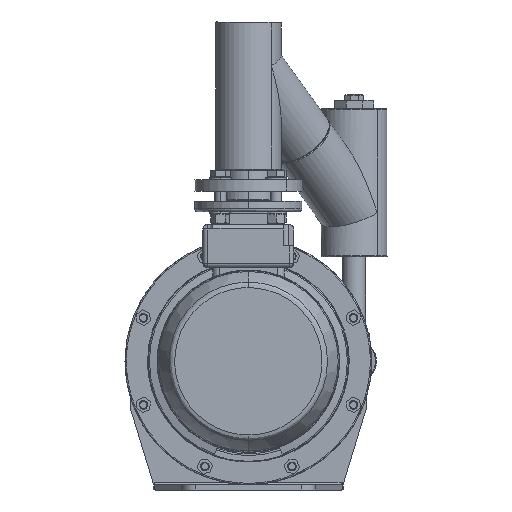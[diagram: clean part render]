
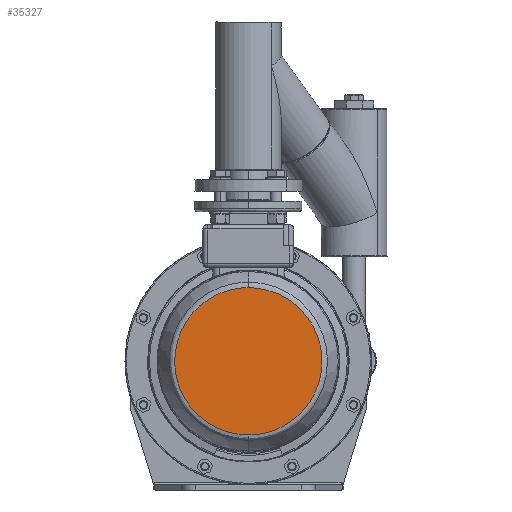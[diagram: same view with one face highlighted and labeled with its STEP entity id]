
A CAD part, front view. The second image highlights one B-rep face of the part: STEP entity #35327.
In plain terms, the highlighted planar face has unit normal (0, -1, 0).
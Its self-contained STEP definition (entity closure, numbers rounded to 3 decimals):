
#22631 = CARTESIAN_POINT ( 'NONE',  ( -154.478, -770.387, -78.019 ) ) ;
#22632 = CARTESIAN_POINT ( 'NONE',  ( 51.56, -770.387, -78.019 ) ) ;
#22633 = CARTESIAN_POINT ( 'NONE',  ( 51.56, -770.387, 128.019 ) ) ;
#22634 = CARTESIAN_POINT ( 'NONE',  ( -154.478, -770.387, 128.019 ) ) ;
#22636 =( BOUNDED_CURVE ( )  B_SPLINE_CURVE ( 3, ( #22634, #22633, #22632, #22631 ),
 .UNSPECIFIED., .F., .F. ) 
 B_SPLINE_CURVE_WITH_KNOTS ( ( 4, 4 ),
 ( 0., 1. ),
 .UNSPECIFIED. ) 
 CURVE ( )  GEOMETRIC_REPRESENTATION_ITEM ( )  RATIONAL_B_SPLINE_CURVE ( ( 1., 0.333, 0.333, 1. ) ) 
 REPRESENTATION_ITEM ( '' )  );
#23059 = CARTESIAN_POINT ( 'NONE',  ( -154.478, -770.387, 25. ) ) ;
#23148 = DIRECTION ( 'NONE',  ( 1., 0., 0. ) ) ;
#23164 = DIRECTION ( 'NONE',  ( 0., -1., 0. ) ) ;
#23167 = FACE_OUTER_BOUND ( 'NONE', #35010, .T. ) ;
#23175 = AXIS2_PLACEMENT_3D ( 'NONE', #23059, #23164, #23148 ) ;
#23177 = PLANE ( 'NONE',  #23175 ) ;
#34457 = EDGE_CURVE ( 'NONE', #101514, #101666, #22636, .T. ) ;
#34520 = ORIENTED_EDGE ( 'NONE', *, *, #34457, .F. ) ;
#34528 = ORIENTED_EDGE ( 'NONE', *, *, #101633, .F. ) ;
#35010 = EDGE_LOOP ( 'NONE', ( #34528, #34520 ) ) ;
#35327 = ADVANCED_FACE ( 'NONE', ( #23167 ), #23177, .T. ) ;
#92176 = CARTESIAN_POINT ( 'NONE',  ( -154.478, -770.387, 128.019 ) ) ;
#92221 = CARTESIAN_POINT ( 'NONE',  ( -154.478, -770.387, 128.019 ) ) ;
#92222 = CARTESIAN_POINT ( 'NONE',  ( -360.517, -770.387, 128.019 ) ) ;
#92224 = CARTESIAN_POINT ( 'NONE',  ( -360.517, -770.387, -78.019 ) ) ;
#92226 = CARTESIAN_POINT ( 'NONE',  ( -154.478, -770.387, -78.019 ) ) ;
#92232 =( BOUNDED_CURVE ( )  B_SPLINE_CURVE ( 3, ( #92226, #92224, #92222, #92221 ),
 .UNSPECIFIED., .F., .T. ) 
 B_SPLINE_CURVE_WITH_KNOTS ( ( 4, 4 ),
 ( 0., 1. ),
 .UNSPECIFIED. ) 
 CURVE ( )  GEOMETRIC_REPRESENTATION_ITEM ( )  RATIONAL_B_SPLINE_CURVE ( ( 1., 0.333, 0.333, 1. ) ) 
 REPRESENTATION_ITEM ( '' )  );
#92311 = CARTESIAN_POINT ( 'NONE',  ( -154.478, -770.387, -78.019 ) ) ;
#101514 = VERTEX_POINT ( 'NONE', #92176 ) ;
#101633 = EDGE_CURVE ( 'NONE', #101666, #101514, #92232, .T. ) ;
#101666 = VERTEX_POINT ( 'NONE', #92311 ) ;
